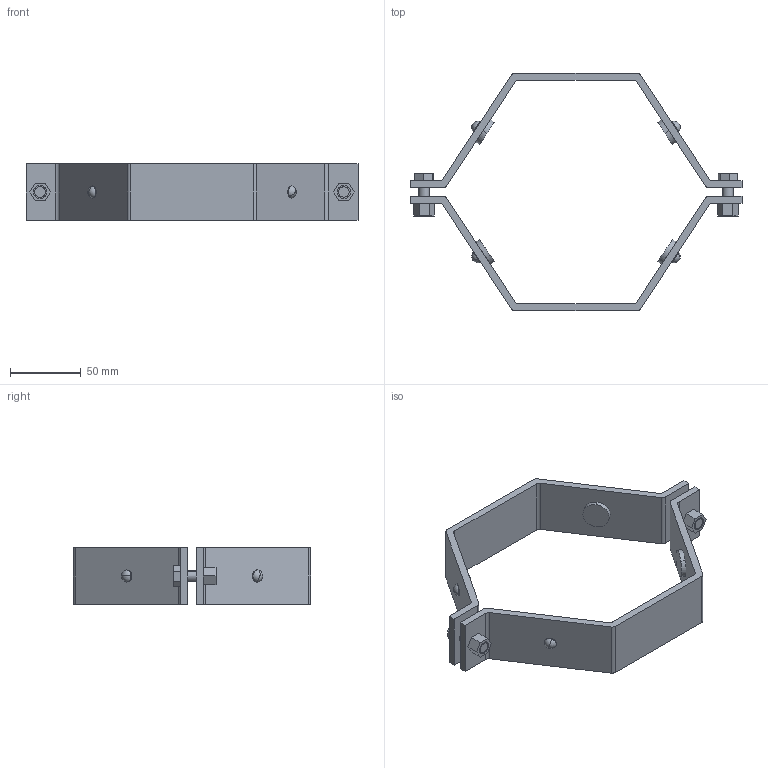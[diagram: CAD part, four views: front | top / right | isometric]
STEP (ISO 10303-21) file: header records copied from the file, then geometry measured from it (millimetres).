
FILE_DESCRIPTION (( 'STEP AP214' ), '1' );
FILE_NAME ('E24 6.0.STEP', '2025-07-16T18:17:20', ( '' ), ( '' ), 'SwSTEP 2.0', 'SolidWorks 2022', '' );
FILE_SCHEMA (( 'AUTOMOTIVE_DESIGN' ));
Length unit declared in the file: inch
Products named in the file (5): E24-2HOLE 6.0; E24 6.0; E24GROMMET 6.0; E24BOLT; E24NUT
Assembly tree (10 placements, depth 2):
  E24 6.0
    E24-2HOLE 6.0  x2
    E24BOLT  x2
    E24GROMMET 6.0  x4
    E24NUT  x2
Bounding box: 235 x 168 x 40.01 mm (x, y, z)
Volume: 134957.1 mm3; surface area: 65407 mm2
Topology: 10 solids, 10 shells, 144 faces, 340 edges, 228 vertices
Faces by surface type: plane 76, cylinder 60, sphere 8
Entity records: 2164 total; most frequent: DIRECTION 362, CARTESIAN_POINT 333, ORIENTED_EDGE 308, EDGE_CURVE 154, AXIS2_PLACEMENT_3D 132, VERTEX_POINT 103, LINE 98, VECTOR 98
